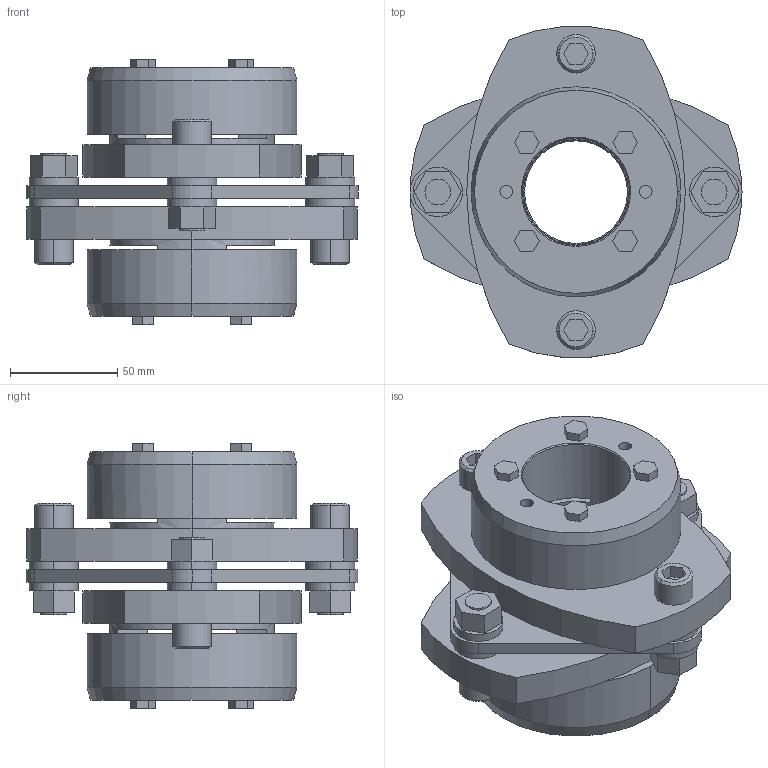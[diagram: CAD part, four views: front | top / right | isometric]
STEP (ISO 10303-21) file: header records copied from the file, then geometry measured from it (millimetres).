
FILE_DESCRIPTION((''),'2;1');
FILE_NAME('LCS-155T7-48×50.stp','2015-10-28T09:27:26',(''),(''),'AutoCAD STEP 2000i','AutoCAD 2000i',', , ');
FILE_SCHEMA(('CONFIG_CONTROL_DESIGN'));
Length unit declared in the file: millimetre
Products named in the file (7): LCS-155T7-50×50; 忣兜1; LC155T7-T050-1; LC155T7-T050; LC155T7-T045-1; LC155T7-T045; LCS155-ITA
Assembly tree (6 placements, depth 2):
  LCS-155T7-50×50
    忣兜1
    LC155T7-T050-1
    LC155T7-T050
    LC155T7-T045-1
    LC155T7-T045
    LCS155-ITA
Bounding box: 155 x 154.9 x 124 mm (x, y, z)
Volume: 810010.1 mm3; surface area: 144624.3 mm2
Topology: 1 solids, 1 shells, 246 faces, 606 edges, 398 vertices
Faces by surface type: plane 146, cylinder 80, cone 20
Entity records: 7499 total; most frequent: DIRECTION 1310, CARTESIAN_POINT 1257, ORIENTED_EDGE 1212, EDGE_CURVE 606, AXIS2_PLACEMENT_3D 451, VECTOR 408, LINE 408, VERTEX_POINT 398
